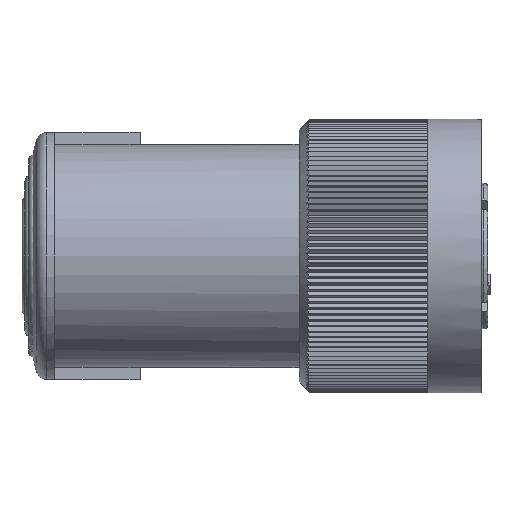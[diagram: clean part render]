
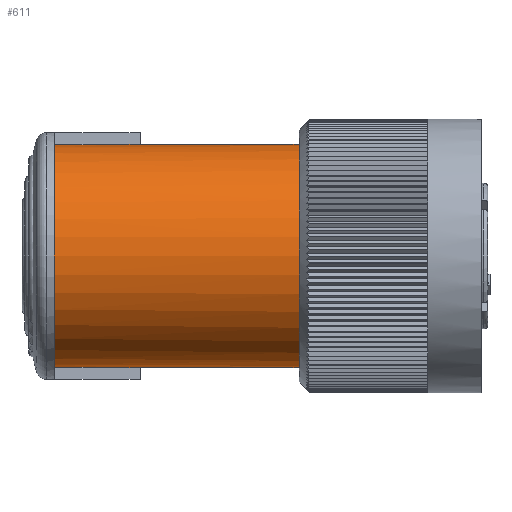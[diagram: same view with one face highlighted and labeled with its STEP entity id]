
A CAD part, front view. The second image highlights one B-rep face of the part: STEP entity #611.
In plain terms, the highlighted cylindrical face has radius 10.4 mm (diameter 20.8 mm), a full revolution.
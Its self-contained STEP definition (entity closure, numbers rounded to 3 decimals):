
#217=CARTESIAN_POINT('',(-7.,0.,10.4));
#218=VERTEX_POINT('',#217);
#225=CARTESIAN_POINT('',(-7.,1.235,10.326));
#226=VERTEX_POINT('',#225);
#227=CARTESIAN_POINT('',(-7.,0.0,0.0));
#228=DIRECTION('',(-1.0,0.0,0.0));
#229=DIRECTION('',(0.0,1.0,0.0));
#230=AXIS2_PLACEMENT_3D('',#227,#228,#229);
#231=CIRCLE('',#230,10.4);
#232=EDGE_CURVE('',#218,#226,#231,.T.);
#515=CARTESIAN_POINT('',(2.0,0.0,0.0));
#516=DIRECTION('',(-1.0,0.0,0.0));
#517=DIRECTION('',(0.0,1.0,0.0));
#518=AXIS2_PLACEMENT_3D('',#515,#516,#517);
#519=CYLINDRICAL_SURFACE('',#518,10.4);
#520=CARTESIAN_POINT('',(7.8,0.0,10.4));
#521=VERTEX_POINT('',#520);
#522=CARTESIAN_POINT('',(7.8,0.0,0.0));
#523=DIRECTION('',(1.0,0.0,0.0));
#524=DIRECTION('',(0.0,0.0,1.0));
#525=AXIS2_PLACEMENT_3D('',#522,#523,#524);
#526=CIRCLE('',#525,10.4);
#527=EDGE_CURVE('',#521,#521,#526,.T.);
#528=ORIENTED_EDGE('',*,*,#527,.F.);
#529=EDGE_LOOP('',(#528));
#530=FACE_OUTER_BOUND('',#529,.T.);
#531=CARTESIAN_POINT('',(-15.0,-0.7,-10.376));
#532=VERTEX_POINT('',#531);
#533=CARTESIAN_POINT('',(-15.0,-0.7,10.376));
#534=VERTEX_POINT('',#533);
#535=CARTESIAN_POINT('',(-15.0,0.,0.));
#536=DIRECTION('',(-1.0,0.0,0.0));
#537=DIRECTION('',(0.0,1.0,0.0));
#538=AXIS2_PLACEMENT_3D('',#535,#536,#537);
#539=CIRCLE('',#538,10.4);
#540=EDGE_CURVE('',#532,#534,#539,.T.);
#541=ORIENTED_EDGE('',*,*,#540,.F.);
#542=CARTESIAN_POINT('',(-7.,0.,-10.4));
#543=VERTEX_POINT('',#542);
#544=CARTESIAN_POINT('',(-7.,0.0,0.0));
#545=DIRECTION('',(0.087,-0.996,0.));
#546=DIRECTION('',(-0.996,-0.087,0.));
#547=AXIS2_PLACEMENT_3D('',#544,#545,#546);
#548=ELLIPSE('',#547,119.327,10.4);
#549=EDGE_CURVE('',#532,#543,#548,.T.);
#550=ORIENTED_EDGE('',*,*,#549,.T.);
#551=CARTESIAN_POINT('',(-7.,1.235,-10.326));
#552=VERTEX_POINT('',#551);
#553=CARTESIAN_POINT('',(-7.,0.0,0.0));
#554=DIRECTION('',(-1.0,0.0,0.0));
#555=DIRECTION('',(0.0,1.0,0.0));
#556=AXIS2_PLACEMENT_3D('',#553,#554,#555);
#557=CIRCLE('',#556,10.4);
#558=EDGE_CURVE('',#552,#543,#557,.T.);
#559=ORIENTED_EDGE('',*,*,#558,.F.);
#560=CARTESIAN_POINT('',(-7.,1.235,10.326));
#561=CARTESIAN_POINT('',(-6.883,1.235,10.326));
#562=CARTESIAN_POINT('',(-6.79,1.265,10.323));
#563=CARTESIAN_POINT('',(-6.623,1.336,10.314));
#564=CARTESIAN_POINT('',(-6.549,1.379,10.308));
#565=CARTESIAN_POINT('',(-6.335,1.517,10.289));
#566=CARTESIAN_POINT('',(-6.206,1.619,10.274));
#567=CARTESIAN_POINT('',(-5.812,1.946,10.219));
#568=CARTESIAN_POINT('',(-5.554,2.185,10.171));
#569=CARTESIAN_POINT('',(-4.738,2.951,9.986));
#570=CARTESIAN_POINT('',(-4.154,3.522,9.806));
#571=CARTESIAN_POINT('',(-2.363,5.282,9.049));
#572=CARTESIAN_POINT('',(-1.09,6.548,8.226));
#573=CARTESIAN_POINT('',(0.741,8.369,6.275));
#574=CARTESIAN_POINT('',(1.475,9.1,5.208));
#575=CARTESIAN_POINT('',(2.241,9.863,3.366));
#576=CARTESIAN_POINT('',(2.442,10.063,2.712));
#577=CARTESIAN_POINT('',(2.712,10.332,1.37));
#578=CARTESIAN_POINT('',(2.78,10.4,0.681));
#579=CARTESIAN_POINT('',(2.78,10.4,-0.681));
#580=CARTESIAN_POINT('',(2.712,10.332,-1.37));
#581=CARTESIAN_POINT('',(2.442,10.063,-2.712));
#582=CARTESIAN_POINT('',(2.241,9.863,-3.366));
#583=CARTESIAN_POINT('',(1.475,9.1,-5.208));
#584=CARTESIAN_POINT('',(0.741,8.369,-6.275));
#585=CARTESIAN_POINT('',(-1.09,6.548,-8.226));
#586=CARTESIAN_POINT('',(-2.363,5.282,-9.049));
#587=CARTESIAN_POINT('',(-4.154,3.522,-9.806));
#588=CARTESIAN_POINT('',(-4.738,2.951,-9.986));
#589=CARTESIAN_POINT('',(-5.554,2.185,-10.171));
#590=CARTESIAN_POINT('',(-5.812,1.946,-10.219));
#591=CARTESIAN_POINT('',(-6.206,1.619,-10.274));
#592=CARTESIAN_POINT('',(-6.335,1.517,-10.289));
#593=CARTESIAN_POINT('',(-6.549,1.379,-10.308));
#594=CARTESIAN_POINT('',(-6.623,1.336,-10.314));
#595=CARTESIAN_POINT('',(-6.79,1.265,-10.323));
#596=CARTESIAN_POINT('',(-6.883,1.235,-10.326));
#597=CARTESIAN_POINT('',(-7.,1.235,-10.326));
#598=B_SPLINE_CURVE_WITH_KNOTS('',3,(#560,#561,#562,#563,#564,#565,#566,#567,#568,#569,#570,#571,#572,#573,#574,#575,#576,#577,#578,#579,#580,#581,#582,#583,#584,#585,#586,#587,#588,#589,#590,#591,#592,#593,#594,#595,#596,#597),.UNSPECIFIED.,.F.,.U.,(4,2,2,2,2,2,2,2,2,2,2,2,2,2,2,2,2,2,4),(0.0,0.035,0.07,0.141,0.281,0.563,1.126,1.534,1.738,1.942,2.147,2.351,2.759,3.322,3.603,3.744,3.814,3.85,3.885),.UNSPECIFIED.);
#599=EDGE_CURVE('',#226,#552,#598,.T.);
#600=ORIENTED_EDGE('',*,*,#599,.F.);
#601=ORIENTED_EDGE('',*,*,#232,.F.);
#602=CARTESIAN_POINT('',(-7.,0.0,0.0));
#603=DIRECTION('',(0.087,-0.996,0.));
#604=DIRECTION('',(-0.996,-0.087,0.));
#605=AXIS2_PLACEMENT_3D('',#602,#603,#604);
#606=ELLIPSE('',#605,119.327,10.4);
#607=EDGE_CURVE('',#218,#534,#606,.T.);
#608=ORIENTED_EDGE('',*,*,#607,.T.);
#609=EDGE_LOOP('',(#541,#550,#559,#600,#601,#608));
#610=FACE_BOUND('',#609,.T.);
#611=ADVANCED_FACE('',(#530,#610),#519,.T.);
